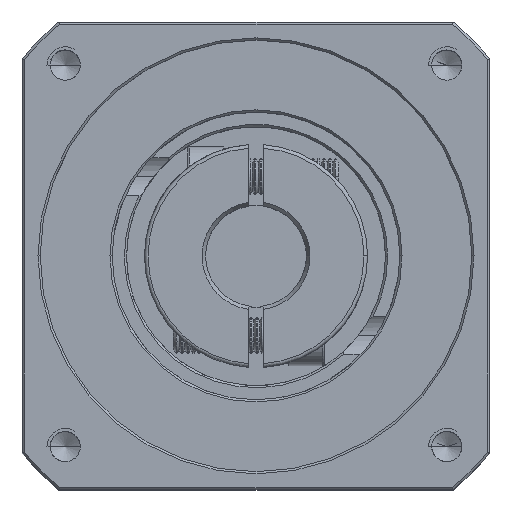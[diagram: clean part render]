
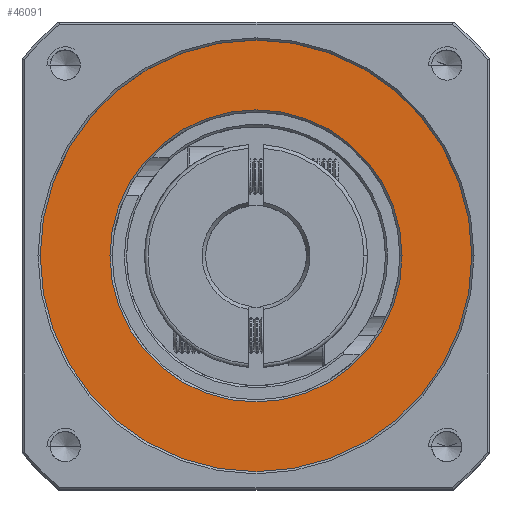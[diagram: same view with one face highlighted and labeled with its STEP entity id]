
A CAD part, top view. The second image highlights one B-rep face of the part: STEP entity #46091.
In plain terms, the highlighted planar face has unit normal (0, 0, 1).
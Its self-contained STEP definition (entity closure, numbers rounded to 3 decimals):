
#1209 = ORIENTED_EDGE ( 'NONE', *, *, #6377, .T. ) ;
#4402 = CARTESIAN_POINT ( 'NONE',  ( -54.657, 22.264, 44.201 ) ) ;
#5798 = VERTEX_POINT ( 'NONE', #51434 ) ;
#6377 = EDGE_CURVE ( 'NONE', #11683, #21574, #38721, .T. ) ;
#8425 = EDGE_LOOP ( 'NONE', ( #43747, #1209 ) ) ;
#10805 = DIRECTION ( 'NONE',  ( 0., 0., 1. ) ) ;
#11331 = AXIS2_PLACEMENT_3D ( 'NONE', #80879, #33637, #88725 ) ;
#11683 = VERTEX_POINT ( 'NONE', #31366 ) ;
#17236 = CARTESIAN_POINT ( 'NONE',  ( -74.957, 22.264, 44.201 ) ) ;
#20048 = CARTESIAN_POINT ( 'NONE',  ( -74.957, 22.264, 44.201 ) ) ;
#21000 = AXIS2_PLACEMENT_3D ( 'NONE', #57863, #10805, #65842 ) ;
#21574 = VERTEX_POINT ( 'NONE', #4402 ) ;
#25112 = DIRECTION ( 'NONE',  ( 1., 0., 0. ) ) ;
#26693 = CIRCLE ( 'NONE', #11331, 30. ) ;
#27872 = DIRECTION ( 'NONE',  ( 1., 0., 0. ) ) ;
#31366 = CARTESIAN_POINT ( 'NONE',  ( -95.257, 22.264, 44.201 ) ) ;
#33637 = DIRECTION ( 'NONE',  ( 0., 0., 1. ) ) ;
#34099 = CIRCLE ( 'NONE', #74913, 20.3 ) ;
#37466 = FACE_OUTER_BOUND ( 'NONE', #95328, .T. ) ;
#38721 = CIRCLE ( 'NONE', #90363, 20.3 ) ;
#43747 = ORIENTED_EDGE ( 'NONE', *, *, #45238, .T. ) ;
#44201 = CARTESIAN_POINT ( 'NONE',  ( -74.957, 22.264, 44.201 ) ) ;
#45238 = EDGE_CURVE ( 'NONE', #21574, #11683, #34099, .T. ) ;
#46091 = ADVANCED_FACE ( 'NONE', ( #95255, #37466 ), #88841, .T. ) ;
#51130 = AXIS2_PLACEMENT_3D ( 'NONE', #17236, #72294, #25112 ) ;
#51434 = CARTESIAN_POINT ( 'NONE',  ( -104.957, 22.264, 44.201 ) ) ;
#52102 = DIRECTION ( 'NONE',  ( 1., 0., 0. ) ) ;
#57863 = CARTESIAN_POINT ( 'NONE',  ( -74.957, 22.264, 44.201 ) ) ;
#60090 = EDGE_CURVE ( 'NONE', #75303, #5798, #26693, .T. ) ;
#62841 = CARTESIAN_POINT ( 'NONE',  ( -44.957, 22.264, 44.201 ) ) ;
#64200 = ORIENTED_EDGE ( 'NONE', *, *, #66240, .T. ) ;
#65842 = DIRECTION ( 'NONE',  ( 1., 0., 0. ) ) ;
#66240 = EDGE_CURVE ( 'NONE', #5798, #75303, #85589, .T. ) ;
#72294 = DIRECTION ( 'NONE',  ( 0., 0., 1. ) ) ;
#74913 = AXIS2_PLACEMENT_3D ( 'NONE', #44201, #99125, #52102 ) ;
#75071 = DIRECTION ( 'NONE',  ( 0., 0., -1. ) ) ;
#75303 = VERTEX_POINT ( 'NONE', #62841 ) ;
#80879 = CARTESIAN_POINT ( 'NONE',  ( -74.957, 22.264, 44.201 ) ) ;
#85589 = CIRCLE ( 'NONE', #51130, 30. ) ;
#86622 = ORIENTED_EDGE ( 'NONE', *, *, #60090, .T. ) ;
#88725 = DIRECTION ( 'NONE',  ( 1., 0., 0. ) ) ;
#88841 = PLANE ( 'NONE',  #21000 ) ;
#90363 = AXIS2_PLACEMENT_3D ( 'NONE', #20048, #75071, #27872 ) ;
#95255 = FACE_BOUND ( 'NONE', #8425, .T. ) ;
#95328 = EDGE_LOOP ( 'NONE', ( #86622, #64200 ) ) ;
#99125 = DIRECTION ( 'NONE',  ( 0., 0., -1. ) ) ;
